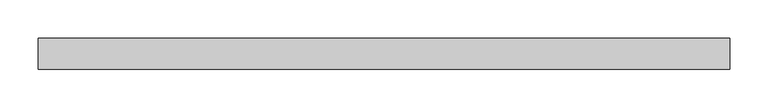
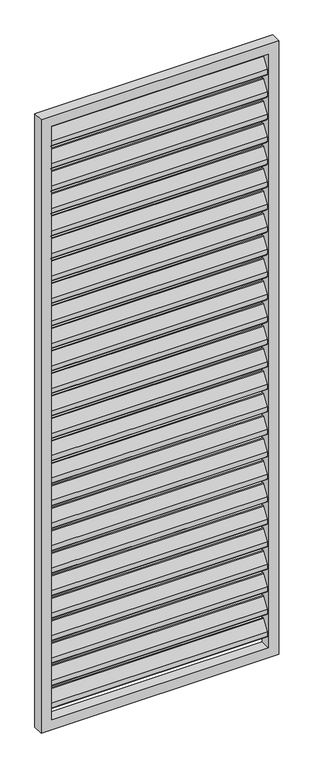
"""IFC4 building model written with IfcOpenShell, lengths in millimetres: proxy geometry."""

from ifc_helpers import new_model, si_unit, point, frame, frame_2d, origin, place, context, project, spatial, polyline, circle_curve, trimmed, segment, composite_curve, outline, extrude, source, transform, mapped, element, save


def generic_models_fa1a9668(model_context):
    return source(origin(), model_context, "Body", "SweptSolid", [
        extrude(outline(composite_curve([segment(trimmed(circle_curve(frame_2d((12.6675921, 2432.6587719)), 3.0), [point((10.1515804, 2434.292689))], [point((15.6675921, 2432.6587719))], False, "CARTESIAN"), True, "CONTINUOUS"), segment(polyline([(15.6675921, 2432.6587719), (15.6675921, 2414.2979873)]), True, "CONTINUOUS"), segment(trimmed(circle_curve(frame_2d((12.6675921, 2414.2979873)), 3.0), [point((15.6675921, 2414.2979873))], [point((15.1836038, 2412.6640702))], False, "CARTESIAN"), True, "CONTINUOUS"), segment(polyline([(15.1836038, 2412.6640702), (-8.8163962, 2375.707311)]), True, "CONTINUOUS"), segment(trimmed(circle_curve(frame_2d((-11.3324079, 2377.3412281)), 3.0), [point((-8.8163962, 2375.707311))], [point((-14.3324079, 2377.3412281))], False, "CARTESIAN"), True, "CONTINUOUS"), segment(polyline([(-14.3324079, 2377.3412281), (-14.3324079, 2396.5906532), (10.1515804, 2434.292689)]), True, "CONTINUOUS")], self_intersect=False)), frame((-410.0, 0.0, 0.0), z_axis=(1.0, 0.0, 0.0), x_axis=(0.0, 1.0, 0.0)), (0.0, 0.0, 1.0), 820.0),
        extrude(outline(composite_curve([segment(trimmed(circle_curve(frame_2d((12.6675921, 2342.6587719)), 3.0), [point((10.1515804, 2344.292689))], [point((15.6675921, 2342.6587719))], False, "CARTESIAN"), True, "CONTINUOUS"), segment(polyline([(15.6675921, 2342.6587719), (15.6675921, 2324.2979873)]), True, "CONTINUOUS"), segment(trimmed(circle_curve(frame_2d((12.6675921, 2324.2979873)), 3.0), [point((15.6675921, 2324.2979873))], [point((15.1836038, 2322.6640702))], False, "CARTESIAN"), True, "CONTINUOUS"), segment(polyline([(15.1836038, 2322.6640702), (-8.8163962, 2285.707311)]), True, "CONTINUOUS"), segment(trimmed(circle_curve(frame_2d((-11.3324079, 2287.3412281)), 3.0), [point((-8.8163962, 2285.707311))], [point((-14.3324079, 2287.3412281))], False, "CARTESIAN"), True, "CONTINUOUS"), segment(polyline([(-14.3324079, 2287.3412281), (-14.3324079, 2306.5906532), (10.1515804, 2344.292689)]), True, "CONTINUOUS")], self_intersect=False)), frame((-410.0, 0.0, 0.0), z_axis=(1.0, 0.0, 0.0), x_axis=(0.0, 1.0, 0.0)), (0.0, 0.0, 1.0), 820.0),
        extrude(outline(composite_curve([segment(trimmed(circle_curve(frame_2d((12.6675921, 2252.6587719)), 3.0), [point((10.1515804, 2254.292689))], [point((15.6675921, 2252.6587719))], False, "CARTESIAN"), True, "CONTINUOUS"), segment(polyline([(15.6675921, 2252.6587719), (15.6675921, 2234.2979873)]), True, "CONTINUOUS"), segment(trimmed(circle_curve(frame_2d((12.6675921, 2234.2979873)), 3.0), [point((15.6675921, 2234.2979873))], [point((15.1836038, 2232.6640702))], False, "CARTESIAN"), True, "CONTINUOUS"), segment(polyline([(15.1836038, 2232.6640702), (-8.8163962, 2195.707311)]), True, "CONTINUOUS"), segment(trimmed(circle_curve(frame_2d((-11.3324079, 2197.3412281)), 3.0), [point((-8.8163962, 2195.707311))], [point((-14.3324079, 2197.3412281))], False, "CARTESIAN"), True, "CONTINUOUS"), segment(polyline([(-14.3324079, 2197.3412281), (-14.3324079, 2216.5906532), (10.1515804, 2254.292689)]), True, "CONTINUOUS")], self_intersect=False)), frame((-410.0, 0.0, 0.0), z_axis=(1.0, 0.0, 0.0), x_axis=(0.0, 1.0, 0.0)), (0.0, 0.0, 1.0), 820.0),
        extrude(outline(composite_curve([segment(trimmed(circle_curve(frame_2d((12.6675921, 2162.6587719)), 3.0), [point((10.1515804, 2164.292689))], [point((15.6675921, 2162.6587719))], False, "CARTESIAN"), True, "CONTINUOUS"), segment(polyline([(15.6675921, 2162.6587719), (15.6675921, 2144.2979873)]), True, "CONTINUOUS"), segment(trimmed(circle_curve(frame_2d((12.6675921, 2144.2979873)), 3.0), [point((15.6675921, 2144.2979873))], [point((15.1836038, 2142.6640702))], False, "CARTESIAN"), True, "CONTINUOUS"), segment(polyline([(15.1836038, 2142.6640702), (-8.8163962, 2105.707311)]), True, "CONTINUOUS"), segment(trimmed(circle_curve(frame_2d((-11.3324079, 2107.3412281)), 3.0), [point((-8.8163962, 2105.707311))], [point((-14.3324079, 2107.3412281))], False, "CARTESIAN"), True, "CONTINUOUS"), segment(polyline([(-14.3324079, 2107.3412281), (-14.3324079, 2126.5906532), (10.1515804, 2164.292689)]), True, "CONTINUOUS")], self_intersect=False)), frame((-410.0, 0.0, 0.0), z_axis=(1.0, 0.0, 0.0), x_axis=(0.0, 1.0, 0.0)), (0.0, 0.0, 1.0), 820.0),
        extrude(outline(composite_curve([segment(trimmed(circle_curve(frame_2d((12.6675921, 2072.6587719)), 3.0), [point((10.1515804, 2074.292689))], [point((15.6675921, 2072.6587719))], False, "CARTESIAN"), True, "CONTINUOUS"), segment(polyline([(15.6675921, 2072.6587719), (15.6675921, 2054.2979873)]), True, "CONTINUOUS"), segment(trimmed(circle_curve(frame_2d((12.6675921, 2054.2979873)), 3.0), [point((15.6675921, 2054.2979873))], [point((15.1836038, 2052.6640702))], False, "CARTESIAN"), True, "CONTINUOUS"), segment(polyline([(15.1836038, 2052.6640702), (-8.8163962, 2015.707311)]), True, "CONTINUOUS"), segment(trimmed(circle_curve(frame_2d((-11.3324079, 2017.3412281)), 3.0), [point((-8.8163962, 2015.707311))], [point((-14.3324079, 2017.3412281))], False, "CARTESIAN"), True, "CONTINUOUS"), segment(polyline([(-14.3324079, 2017.3412281), (-14.3324079, 2036.5906532), (10.1515804, 2074.292689)]), True, "CONTINUOUS")], self_intersect=False)), frame((-410.0, 0.0, 0.0), z_axis=(1.0, 0.0, 0.0), x_axis=(0.0, 1.0, 0.0)), (0.0, 0.0, 1.0), 820.0),
        extrude(outline(composite_curve([segment(trimmed(circle_curve(frame_2d((12.6675921, 1982.6587719)), 3.0), [point((10.1515804, 1984.292689))], [point((15.6675921, 1982.6587719))], False, "CARTESIAN"), True, "CONTINUOUS"), segment(polyline([(15.6675921, 1982.6587719), (15.6675921, 1964.2979873)]), True, "CONTINUOUS"), segment(trimmed(circle_curve(frame_2d((12.6675921, 1964.2979873)), 3.0), [point((15.6675921, 1964.2979873))], [point((15.1836038, 1962.6640702))], False, "CARTESIAN"), True, "CONTINUOUS"), segment(polyline([(15.1836038, 1962.6640702), (-8.8163962, 1925.707311)]), True, "CONTINUOUS"), segment(trimmed(circle_curve(frame_2d((-11.3324079, 1927.3412281)), 3.0), [point((-8.8163962, 1925.707311))], [point((-14.3324079, 1927.3412281))], False, "CARTESIAN"), True, "CONTINUOUS"), segment(polyline([(-14.3324079, 1927.3412281), (-14.3324079, 1946.5906532), (10.1515804, 1984.292689)]), True, "CONTINUOUS")], self_intersect=False)), frame((-410.0, 0.0, 0.0), z_axis=(1.0, 0.0, 0.0), x_axis=(0.0, 1.0, 0.0)), (0.0, 0.0, 1.0), 820.0),
        extrude(outline(composite_curve([segment(trimmed(circle_curve(frame_2d((12.6675921, 1892.6587719)), 3.0), [point((10.1515804, 1894.292689))], [point((15.6675921, 1892.6587719))], False, "CARTESIAN"), True, "CONTINUOUS"), segment(polyline([(15.6675921, 1892.6587719), (15.6675921, 1874.2979873)]), True, "CONTINUOUS"), segment(trimmed(circle_curve(frame_2d((12.6675921, 1874.2979873)), 3.0), [point((15.6675921, 1874.2979873))], [point((15.1836038, 1872.6640702))], False, "CARTESIAN"), True, "CONTINUOUS"), segment(polyline([(15.1836038, 1872.6640702), (-8.8163962, 1835.707311)]), True, "CONTINUOUS"), segment(trimmed(circle_curve(frame_2d((-11.3324079, 1837.3412281)), 3.0), [point((-8.8163962, 1835.707311))], [point((-14.3324079, 1837.3412281))], False, "CARTESIAN"), True, "CONTINUOUS"), segment(polyline([(-14.3324079, 1837.3412281), (-14.3324079, 1856.5906532), (10.1515804, 1894.292689)]), True, "CONTINUOUS")], self_intersect=False)), frame((-410.0, 0.0, 0.0), z_axis=(1.0, 0.0, 0.0), x_axis=(0.0, 1.0, 0.0)), (0.0, 0.0, 1.0), 820.0),
        extrude(outline(composite_curve([segment(trimmed(circle_curve(frame_2d((12.6675921, 1802.6587719)), 3.0), [point((10.1515804, 1804.292689))], [point((15.6675921, 1802.6587719))], False, "CARTESIAN"), True, "CONTINUOUS"), segment(polyline([(15.6675921, 1802.6587719), (15.6675921, 1784.2979873)]), True, "CONTINUOUS"), segment(trimmed(circle_curve(frame_2d((12.6675921, 1784.2979873)), 3.0), [point((15.6675921, 1784.2979873))], [point((15.1836038, 1782.6640702))], False, "CARTESIAN"), True, "CONTINUOUS"), segment(polyline([(15.1836038, 1782.6640702), (-8.8163962, 1745.707311)]), True, "CONTINUOUS"), segment(trimmed(circle_curve(frame_2d((-11.3324079, 1747.3412281)), 3.0), [point((-8.8163962, 1745.707311))], [point((-14.3324079, 1747.3412281))], False, "CARTESIAN"), True, "CONTINUOUS"), segment(polyline([(-14.3324079, 1747.3412281), (-14.3324079, 1766.5906532), (10.1515804, 1804.292689)]), True, "CONTINUOUS")], self_intersect=False)), frame((-410.0, 0.0, 0.0), z_axis=(1.0, 0.0, 0.0), x_axis=(0.0, 1.0, 0.0)), (0.0, 0.0, 1.0), 820.0),
        extrude(outline(composite_curve([segment(trimmed(circle_curve(frame_2d((12.6675921, 1712.6587719)), 3.0), [point((10.1515804, 1714.292689))], [point((15.6675921, 1712.6587719))], False, "CARTESIAN"), True, "CONTINUOUS"), segment(polyline([(15.6675921, 1712.6587719), (15.6675921, 1694.2979873)]), True, "CONTINUOUS"), segment(trimmed(circle_curve(frame_2d((12.6675921, 1694.2979873)), 3.0), [point((15.6675921, 1694.2979873))], [point((15.1836038, 1692.6640702))], False, "CARTESIAN"), True, "CONTINUOUS"), segment(polyline([(15.1836038, 1692.6640702), (-8.8163962, 1655.707311)]), True, "CONTINUOUS"), segment(trimmed(circle_curve(frame_2d((-11.3324079, 1657.3412281)), 3.0), [point((-8.8163962, 1655.707311))], [point((-14.3324079, 1657.3412281))], False, "CARTESIAN"), True, "CONTINUOUS"), segment(polyline([(-14.3324079, 1657.3412281), (-14.3324079, 1676.5906532), (10.1515804, 1714.292689)]), True, "CONTINUOUS")], self_intersect=False)), frame((-410.0, 0.0, 0.0), z_axis=(1.0, 0.0, 0.0), x_axis=(0.0, 1.0, 0.0)), (0.0, 0.0, 1.0), 820.0),
        extrude(outline(composite_curve([segment(trimmed(circle_curve(frame_2d((12.6675921, 1622.6587719)), 3.0), [point((10.1515804, 1624.292689))], [point((15.6675921, 1622.6587719))], False, "CARTESIAN"), True, "CONTINUOUS"), segment(polyline([(15.6675921, 1622.6587719), (15.6675921, 1604.2979873)]), True, "CONTINUOUS"), segment(trimmed(circle_curve(frame_2d((12.6675921, 1604.2979873)), 3.0), [point((15.6675921, 1604.2979873))], [point((15.1836038, 1602.6640702))], False, "CARTESIAN"), True, "CONTINUOUS"), segment(polyline([(15.1836038, 1602.6640702), (-8.8163962, 1565.707311)]), True, "CONTINUOUS"), segment(trimmed(circle_curve(frame_2d((-11.3324079, 1567.3412281)), 3.0), [point((-8.8163962, 1565.707311))], [point((-14.3324079, 1567.3412281))], False, "CARTESIAN"), True, "CONTINUOUS"), segment(polyline([(-14.3324079, 1567.3412281), (-14.3324079, 1586.5906532), (10.1515804, 1624.292689)]), True, "CONTINUOUS")], self_intersect=False)), frame((-410.0, 0.0, 0.0), z_axis=(1.0, 0.0, 0.0), x_axis=(0.0, 1.0, 0.0)), (0.0, 0.0, 1.0), 820.0),
        extrude(outline(composite_curve([segment(trimmed(circle_curve(frame_2d((12.6675921, 1532.6587719)), 3.0), [point((10.1515804, 1534.292689))], [point((15.6675921, 1532.6587719))], False, "CARTESIAN"), True, "CONTINUOUS"), segment(polyline([(15.6675921, 1532.6587719), (15.6675921, 1514.2979873)]), True, "CONTINUOUS"), segment(trimmed(circle_curve(frame_2d((12.6675921, 1514.2979873)), 3.0), [point((15.6675921, 1514.2979873))], [point((15.1836038, 1512.6640702))], False, "CARTESIAN"), True, "CONTINUOUS"), segment(polyline([(15.1836038, 1512.6640702), (-8.8163962, 1475.707311)]), True, "CONTINUOUS"), segment(trimmed(circle_curve(frame_2d((-11.3324079, 1477.3412281)), 3.0), [point((-8.8163962, 1475.707311))], [point((-14.3324079, 1477.3412281))], False, "CARTESIAN"), True, "CONTINUOUS"), segment(polyline([(-14.3324079, 1477.3412281), (-14.3324079, 1496.5906532), (10.1515804, 1534.292689)]), True, "CONTINUOUS")], self_intersect=False)), frame((-410.0, 0.0, 0.0), z_axis=(1.0, 0.0, 0.0), x_axis=(0.0, 1.0, 0.0)), (0.0, 0.0, 1.0), 820.0),
        extrude(outline(composite_curve([segment(trimmed(circle_curve(frame_2d((12.6675921, 1442.6587719)), 3.0), [point((10.1515804, 1444.292689))], [point((15.6675921, 1442.6587719))], False, "CARTESIAN"), True, "CONTINUOUS"), segment(polyline([(15.6675921, 1442.6587719), (15.6675921, 1424.2979873)]), True, "CONTINUOUS"), segment(trimmed(circle_curve(frame_2d((12.6675921, 1424.2979873)), 3.0), [point((15.6675921, 1424.2979873))], [point((15.1836038, 1422.6640702))], False, "CARTESIAN"), True, "CONTINUOUS"), segment(polyline([(15.1836038, 1422.6640702), (-8.8163962, 1385.707311)]), True, "CONTINUOUS"), segment(trimmed(circle_curve(frame_2d((-11.3324079, 1387.3412281)), 3.0), [point((-8.8163962, 1385.707311))], [point((-14.3324079, 1387.3412281))], False, "CARTESIAN"), True, "CONTINUOUS"), segment(polyline([(-14.3324079, 1387.3412281), (-14.3324079, 1406.5906532), (10.1515804, 1444.292689)]), True, "CONTINUOUS")], self_intersect=False)), frame((-410.0, 0.0, 0.0), z_axis=(1.0, 0.0, 0.0), x_axis=(0.0, 1.0, 0.0)), (0.0, 0.0, 1.0), 820.0),
        extrude(outline(composite_curve([segment(trimmed(circle_curve(frame_2d((12.6675921, 1352.6587719)), 3.0), [point((10.1515804, 1354.292689))], [point((15.6675921, 1352.6587719))], False, "CARTESIAN"), True, "CONTINUOUS"), segment(polyline([(15.6675921, 1352.6587719), (15.6675921, 1334.2979873)]), True, "CONTINUOUS"), segment(trimmed(circle_curve(frame_2d((12.6675921, 1334.2979873)), 3.0), [point((15.6675921, 1334.2979873))], [point((15.1836038, 1332.6640702))], False, "CARTESIAN"), True, "CONTINUOUS"), segment(polyline([(15.1836038, 1332.6640702), (-8.8163962, 1295.707311)]), True, "CONTINUOUS"), segment(trimmed(circle_curve(frame_2d((-11.3324079, 1297.3412281)), 3.0), [point((-8.8163962, 1295.707311))], [point((-14.3324079, 1297.3412281))], False, "CARTESIAN"), True, "CONTINUOUS"), segment(polyline([(-14.3324079, 1297.3412281), (-14.3324079, 1316.5906532), (10.1515804, 1354.292689)]), True, "CONTINUOUS")], self_intersect=False)), frame((-410.0, 0.0, 0.0), z_axis=(1.0, 0.0, 0.0), x_axis=(0.0, 1.0, 0.0)), (0.0, 0.0, 1.0), 820.0),
        extrude(outline(composite_curve([segment(trimmed(circle_curve(frame_2d((12.6675921, 1262.6587719)), 3.0), [point((10.1515804, 1264.292689))], [point((15.6675921, 1262.6587719))], False, "CARTESIAN"), True, "CONTINUOUS"), segment(polyline([(15.6675921, 1262.6587719), (15.6675921, 1244.2979873)]), True, "CONTINUOUS"), segment(trimmed(circle_curve(frame_2d((12.6675921, 1244.2979873)), 3.0), [point((15.6675921, 1244.2979873))], [point((15.1836038, 1242.6640702))], False, "CARTESIAN"), True, "CONTINUOUS"), segment(polyline([(15.1836038, 1242.6640702), (-8.8163962, 1205.707311)]), True, "CONTINUOUS"), segment(trimmed(circle_curve(frame_2d((-11.3324079, 1207.3412281)), 3.0), [point((-8.8163962, 1205.707311))], [point((-14.3324079, 1207.3412281))], False, "CARTESIAN"), True, "CONTINUOUS"), segment(polyline([(-14.3324079, 1207.3412281), (-14.3324079, 1226.5906532), (10.1515804, 1264.292689)]), True, "CONTINUOUS")], self_intersect=False)), frame((-410.0, 0.0, 0.0), z_axis=(1.0, 0.0, 0.0), x_axis=(0.0, 1.0, 0.0)), (0.0, 0.0, 1.0), 820.0),
        extrude(outline(composite_curve([segment(trimmed(circle_curve(frame_2d((12.6675921, 1172.6587719)), 3.0), [point((10.1515804, 1174.292689))], [point((15.6675921, 1172.6587719))], False, "CARTESIAN"), True, "CONTINUOUS"), segment(polyline([(15.6675921, 1172.6587719), (15.6675921, 1154.2979873)]), True, "CONTINUOUS"), segment(trimmed(circle_curve(frame_2d((12.6675921, 1154.2979873)), 3.0), [point((15.6675921, 1154.2979873))], [point((15.1836038, 1152.6640702))], False, "CARTESIAN"), True, "CONTINUOUS"), segment(polyline([(15.1836038, 1152.6640702), (-8.8163962, 1115.707311)]), True, "CONTINUOUS"), segment(trimmed(circle_curve(frame_2d((-11.3324079, 1117.3412281)), 3.0), [point((-8.8163962, 1115.707311))], [point((-14.3324079, 1117.3412281))], False, "CARTESIAN"), True, "CONTINUOUS"), segment(polyline([(-14.3324079, 1117.3412281), (-14.3324079, 1136.5906532), (10.1515804, 1174.292689)]), True, "CONTINUOUS")], self_intersect=False)), frame((-410.0, 0.0, 0.0), z_axis=(1.0, 0.0, 0.0), x_axis=(0.0, 1.0, 0.0)), (0.0, 0.0, 1.0), 820.0),
        extrude(outline(composite_curve([segment(trimmed(circle_curve(frame_2d((12.6675921, 1082.6587719)), 3.0), [point((10.1515804, 1084.292689))], [point((15.6675921, 1082.6587719))], False, "CARTESIAN"), True, "CONTINUOUS"), segment(polyline([(15.6675921, 1082.6587719), (15.6675921, 1064.2979873)]), True, "CONTINUOUS"), segment(trimmed(circle_curve(frame_2d((12.6675921, 1064.2979873)), 3.0), [point((15.6675921, 1064.2979873))], [point((15.1836038, 1062.6640702))], False, "CARTESIAN"), True, "CONTINUOUS"), segment(polyline([(15.1836038, 1062.6640702), (-8.8163962, 1025.707311)]), True, "CONTINUOUS"), segment(trimmed(circle_curve(frame_2d((-11.3324079, 1027.3412281)), 3.0), [point((-8.8163962, 1025.707311))], [point((-14.3324079, 1027.3412281))], False, "CARTESIAN"), True, "CONTINUOUS"), segment(polyline([(-14.3324079, 1027.3412281), (-14.3324079, 1046.5906532), (10.1515804, 1084.292689)]), True, "CONTINUOUS")], self_intersect=False)), frame((-410.0, 0.0, 0.0), z_axis=(1.0, 0.0, 0.0), x_axis=(0.0, 1.0, 0.0)), (0.0, 0.0, 1.0), 820.0),
        extrude(outline(composite_curve([segment(trimmed(circle_curve(frame_2d((12.6675921, 992.6587719)), 3.0), [point((10.1515804, 994.292689))], [point((15.6675921, 992.6587719))], False, "CARTESIAN"), True, "CONTINUOUS"), segment(polyline([(15.6675921, 992.6587719), (15.6675921, 974.2979873)]), True, "CONTINUOUS"), segment(trimmed(circle_curve(frame_2d((12.6675921, 974.2979873)), 3.0), [point((15.6675921, 974.2979873))], [point((15.1836038, 972.6640702))], False, "CARTESIAN"), True, "CONTINUOUS"), segment(polyline([(15.1836038, 972.6640702), (-8.8163962, 935.707311)]), True, "CONTINUOUS"), segment(trimmed(circle_curve(frame_2d((-11.3324079, 937.3412281)), 3.0), [point((-8.8163962, 935.707311))], [point((-14.3324079, 937.3412281))], False, "CARTESIAN"), True, "CONTINUOUS"), segment(polyline([(-14.3324079, 937.3412281), (-14.3324079, 956.5906532), (10.1515804, 994.292689)]), True, "CONTINUOUS")], self_intersect=False)), frame((-410.0, 0.0, 0.0), z_axis=(1.0, 0.0, 0.0), x_axis=(0.0, 1.0, 0.0)), (0.0, 0.0, 1.0), 820.0),
        extrude(outline(composite_curve([segment(trimmed(circle_curve(frame_2d((12.6675921, 902.6587719)), 3.0), [point((10.1515804, 904.292689))], [point((15.6675921, 902.6587719))], False, "CARTESIAN"), True, "CONTINUOUS"), segment(polyline([(15.6675921, 902.6587719), (15.6675921, 884.2979873)]), True, "CONTINUOUS"), segment(trimmed(circle_curve(frame_2d((12.6675921, 884.2979873)), 3.0), [point((15.6675921, 884.2979873))], [point((15.1836038, 882.6640702))], False, "CARTESIAN"), True, "CONTINUOUS"), segment(polyline([(15.1836038, 882.6640702), (-8.8163962, 845.707311)]), True, "CONTINUOUS"), segment(trimmed(circle_curve(frame_2d((-11.3324079, 847.3412281)), 3.0), [point((-8.8163962, 845.707311))], [point((-14.3324079, 847.3412281))], False, "CARTESIAN"), True, "CONTINUOUS"), segment(polyline([(-14.3324079, 847.3412281), (-14.3324079, 866.5906532), (10.1515804, 904.292689)]), True, "CONTINUOUS")], self_intersect=False)), frame((-410.0, 0.0, 0.0), z_axis=(1.0, 0.0, 0.0), x_axis=(0.0, 1.0, 0.0)), (0.0, 0.0, 1.0), 820.0),
        extrude(outline(composite_curve([segment(trimmed(circle_curve(frame_2d((12.6675921, 812.6587719)), 3.0), [point((10.1515804, 814.292689))], [point((15.6675921, 812.6587719))], False, "CARTESIAN"), True, "CONTINUOUS"), segment(polyline([(15.6675921, 812.6587719), (15.6675921, 794.2979873)]), True, "CONTINUOUS"), segment(trimmed(circle_curve(frame_2d((12.6675921, 794.2979873)), 3.0), [point((15.6675921, 794.2979873))], [point((15.1836038, 792.6640702))], False, "CARTESIAN"), True, "CONTINUOUS"), segment(polyline([(15.1836038, 792.6640702), (-8.8163962, 755.707311)]), True, "CONTINUOUS"), segment(trimmed(circle_curve(frame_2d((-11.3324079, 757.3412281)), 3.0), [point((-8.8163962, 755.707311))], [point((-14.3324079, 757.3412281))], False, "CARTESIAN"), True, "CONTINUOUS"), segment(polyline([(-14.3324079, 757.3412281), (-14.3324079, 776.5906532), (10.1515804, 814.292689)]), True, "CONTINUOUS")], self_intersect=False)), frame((-410.0, 0.0, 0.0), z_axis=(1.0, 0.0, 0.0), x_axis=(0.0, 1.0, 0.0)), (0.0, 0.0, 1.0), 820.0),
        extrude(outline(composite_curve([segment(trimmed(circle_curve(frame_2d((12.6675921, 722.6587719)), 3.0), [point((10.1515804, 724.292689))], [point((15.6675921, 722.6587719))], False, "CARTESIAN"), True, "CONTINUOUS"), segment(polyline([(15.6675921, 722.6587719), (15.6675921, 704.2979873)]), True, "CONTINUOUS"), segment(trimmed(circle_curve(frame_2d((12.6675921, 704.2979873)), 3.0), [point((15.6675921, 704.2979873))], [point((15.1836038, 702.6640702))], False, "CARTESIAN"), True, "CONTINUOUS"), segment(polyline([(15.1836038, 702.6640702), (-8.8163962, 665.707311)]), True, "CONTINUOUS"), segment(trimmed(circle_curve(frame_2d((-11.3324079, 667.3412281)), 3.0), [point((-8.8163962, 665.707311))], [point((-14.3324079, 667.3412281))], False, "CARTESIAN"), True, "CONTINUOUS"), segment(polyline([(-14.3324079, 667.3412281), (-14.3324079, 686.5906532), (10.1515804, 724.292689)]), True, "CONTINUOUS")], self_intersect=False)), frame((-410.0, 0.0, 0.0), z_axis=(1.0, 0.0, 0.0), x_axis=(0.0, 1.0, 0.0)), (0.0, 0.0, 1.0), 820.0),
        extrude(outline(composite_curve([segment(trimmed(circle_curve(frame_2d((12.6675921, 632.6587719)), 3.0), [point((10.1515804, 634.292689))], [point((15.6675921, 632.6587719))], False, "CARTESIAN"), True, "CONTINUOUS"), segment(polyline([(15.6675921, 632.6587719), (15.6675921, 614.2979873)]), True, "CONTINUOUS"), segment(trimmed(circle_curve(frame_2d((12.6675921, 614.2979873)), 3.0), [point((15.6675921, 614.2979873))], [point((15.1836038, 612.6640702))], False, "CARTESIAN"), True, "CONTINUOUS"), segment(polyline([(15.1836038, 612.6640702), (-8.8163962, 575.707311)]), True, "CONTINUOUS"), segment(trimmed(circle_curve(frame_2d((-11.3324079, 577.3412281)), 3.0), [point((-8.8163962, 575.707311))], [point((-14.3324079, 577.3412281))], False, "CARTESIAN"), True, "CONTINUOUS"), segment(polyline([(-14.3324079, 577.3412281), (-14.3324079, 596.5906532), (10.1515804, 634.292689)]), True, "CONTINUOUS")], self_intersect=False)), frame((-410.0, 0.0, 0.0), z_axis=(1.0, 0.0, 0.0), x_axis=(0.0, 1.0, 0.0)), (0.0, 0.0, 1.0), 820.0),
        extrude(outline(composite_curve([segment(trimmed(circle_curve(frame_2d((12.6675921, 542.6587719)), 3.0), [point((10.1515804, 544.292689))], [point((15.6675921, 542.6587719))], False, "CARTESIAN"), True, "CONTINUOUS"), segment(polyline([(15.6675921, 542.6587719), (15.6675921, 524.2979873)]), True, "CONTINUOUS"), segment(trimmed(circle_curve(frame_2d((12.6675921, 524.2979873)), 3.0), [point((15.6675921, 524.2979873))], [point((15.1836038, 522.6640702))], False, "CARTESIAN"), True, "CONTINUOUS"), segment(polyline([(15.1836038, 522.6640702), (-8.8163962, 485.707311)]), True, "CONTINUOUS"), segment(trimmed(circle_curve(frame_2d((-11.3324079, 487.3412281)), 3.0), [point((-8.8163962, 485.707311))], [point((-14.3324079, 487.3412281))], False, "CARTESIAN"), True, "CONTINUOUS"), segment(polyline([(-14.3324079, 487.3412281), (-14.3324079, 506.5906532), (10.1515804, 544.292689)]), True, "CONTINUOUS")], self_intersect=False)), frame((-410.0, 0.0, 0.0), z_axis=(1.0, 0.0, 0.0), x_axis=(0.0, 1.0, 0.0)), (0.0, 0.0, 1.0), 820.0),
        extrude(outline(composite_curve([segment(trimmed(circle_curve(frame_2d((12.6675921, 452.6587719)), 3.0), [point((10.1515804, 454.292689))], [point((15.6675921, 452.6587719))], False, "CARTESIAN"), True, "CONTINUOUS"), segment(polyline([(15.6675921, 452.6587719), (15.6675921, 434.2979873)]), True, "CONTINUOUS"), segment(trimmed(circle_curve(frame_2d((12.6675921, 434.2979873)), 3.0), [point((15.6675921, 434.2979873))], [point((15.1836038, 432.6640702))], False, "CARTESIAN"), True, "CONTINUOUS"), segment(polyline([(15.1836038, 432.6640702), (-8.8163962, 395.707311)]), True, "CONTINUOUS"), segment(trimmed(circle_curve(frame_2d((-11.3324079, 397.3412281)), 3.0), [point((-8.8163962, 395.707311))], [point((-14.3324079, 397.3412281))], False, "CARTESIAN"), True, "CONTINUOUS"), segment(polyline([(-14.3324079, 397.3412281), (-14.3324079, 416.5906532), (10.1515804, 454.292689)]), True, "CONTINUOUS")], self_intersect=False)), frame((-410.0, 0.0, 0.0), z_axis=(1.0, 0.0, 0.0), x_axis=(0.0, 1.0, 0.0)), (0.0, 0.0, 1.0), 820.0),
        extrude(outline(composite_curve([segment(trimmed(circle_curve(frame_2d((12.6675921, 362.6587719)), 3.0), [point((10.1515804, 364.292689))], [point((15.6675921, 362.6587719))], False, "CARTESIAN"), True, "CONTINUOUS"), segment(polyline([(15.6675921, 362.6587719), (15.6675921, 344.2979873)]), True, "CONTINUOUS"), segment(trimmed(circle_curve(frame_2d((12.6675921, 344.2979873)), 3.0), [point((15.6675921, 344.2979873))], [point((15.1836038, 342.6640702))], False, "CARTESIAN"), True, "CONTINUOUS"), segment(polyline([(15.1836038, 342.6640702), (-8.8163962, 305.707311)]), True, "CONTINUOUS"), segment(trimmed(circle_curve(frame_2d((-11.3324079, 307.3412281)), 3.0), [point((-8.8163962, 305.707311))], [point((-14.3324079, 307.3412281))], False, "CARTESIAN"), True, "CONTINUOUS"), segment(polyline([(-14.3324079, 307.3412281), (-14.3324079, 326.5906532), (10.1515804, 364.292689)]), True, "CONTINUOUS")], self_intersect=False)), frame((-410.0, 0.0, 0.0), z_axis=(1.0, 0.0, 0.0), x_axis=(0.0, 1.0, 0.0)), (0.0, 0.0, 1.0), 820.0),
        extrude(outline(composite_curve([segment(trimmed(circle_curve(frame_2d((12.6675921, 272.6587719)), 3.0), [point((10.1515804, 274.292689))], [point((15.6675921, 272.6587719))], False, "CARTESIAN"), True, "CONTINUOUS"), segment(polyline([(15.6675921, 272.6587719), (15.6675921, 254.2979873)]), True, "CONTINUOUS"), segment(trimmed(circle_curve(frame_2d((12.6675921, 254.2979873)), 3.0), [point((15.6675921, 254.2979873))], [point((15.1836038, 252.6640702))], False, "CARTESIAN"), True, "CONTINUOUS"), segment(polyline([(15.1836038, 252.6640702), (-8.8163962, 215.707311)]), True, "CONTINUOUS"), segment(trimmed(circle_curve(frame_2d((-11.3324079, 217.3412281)), 3.0), [point((-8.8163962, 215.707311))], [point((-14.3324079, 217.3412281))], False, "CARTESIAN"), True, "CONTINUOUS"), segment(polyline([(-14.3324079, 217.3412281), (-14.3324079, 236.5906532), (10.1515804, 274.292689)]), True, "CONTINUOUS")], self_intersect=False)), frame((-410.0, 0.0, 0.0), z_axis=(1.0, 0.0, 0.0), x_axis=(0.0, 1.0, 0.0)), (0.0, 0.0, 1.0), 820.0),
        extrude(outline(composite_curve([segment(trimmed(circle_curve(frame_2d((12.6675921, 182.6587719)), 3.0), [point((10.1515804, 184.292689))], [point((15.6675921, 182.6587719))], False, "CARTESIAN"), True, "CONTINUOUS"), segment(polyline([(15.6675921, 182.6587719), (15.6675921, 164.2979873)]), True, "CONTINUOUS"), segment(trimmed(circle_curve(frame_2d((12.6675921, 164.2979873)), 3.0), [point((15.6675921, 164.2979873))], [point((15.1836038, 162.6640702))], False, "CARTESIAN"), True, "CONTINUOUS"), segment(polyline([(15.1836038, 162.6640702), (-8.8163962, 125.707311)]), True, "CONTINUOUS"), segment(trimmed(circle_curve(frame_2d((-11.3324079, 127.3412281)), 3.0), [point((-8.8163962, 125.707311))], [point((-14.3324079, 127.3412281))], False, "CARTESIAN"), True, "CONTINUOUS"), segment(polyline([(-14.3324079, 127.3412281), (-14.3324079, 146.5906532), (10.1515804, 184.292689)]), True, "CONTINUOUS")], self_intersect=False)), frame((-410.0, 0.0, 0.0), z_axis=(1.0, 0.0, 0.0), x_axis=(0.0, 1.0, 0.0)), (0.0, 0.0, 1.0), 820.0),
        extrude(outline(polyline([(2500.0, -450.0), (45.0, -450.0), (45.0, 450.0), (2500.0, 450.0), (2500.0, -450.0)]), holes=[polyline([(2460.0, 410.0), (85.0, 410.0), (85.0, -410.0), (2460.0, -410.0), (2460.0, 410.0)])]), frame((0.0, -20.0, 0.0), z_axis=(0.0, 1.0, 0.0), x_axis=(0.0, 0.0, 1.0)), (0.0, 0.0, 1.0), 40.0),
    ])


if __name__ == "__main__":
    model = new_model("IFC4")
    model_context = context("Model", 3, world=origin())
    ifc_project = project(units=[si_unit("LENGTHUNIT", "METRE", prefix="MILLI")], contexts=[model_context])
    site = spatial("IfcSite", under=ifc_project)
    building = spatial("IfcBuilding", under=site)
    placement = place(None, origin())
    generic_models_shape = generic_models_fa1a9668(model_context)
    element("IfcBuildingElementProxy", 1, Name="Generic Models", at=placement, inside=building, context=model_context, shape_type="MappedRepresentation", body=[
        mapped(generic_models_shape, transform((0.0, 0.0, 0.0), x_axis=(1.0, 0.0, 0.0), y_axis=(0.0, 1.0, 0.0), z_axis=(0.0, 0.0, 1.0))),
    ])
    save(model, "model.ifc")
